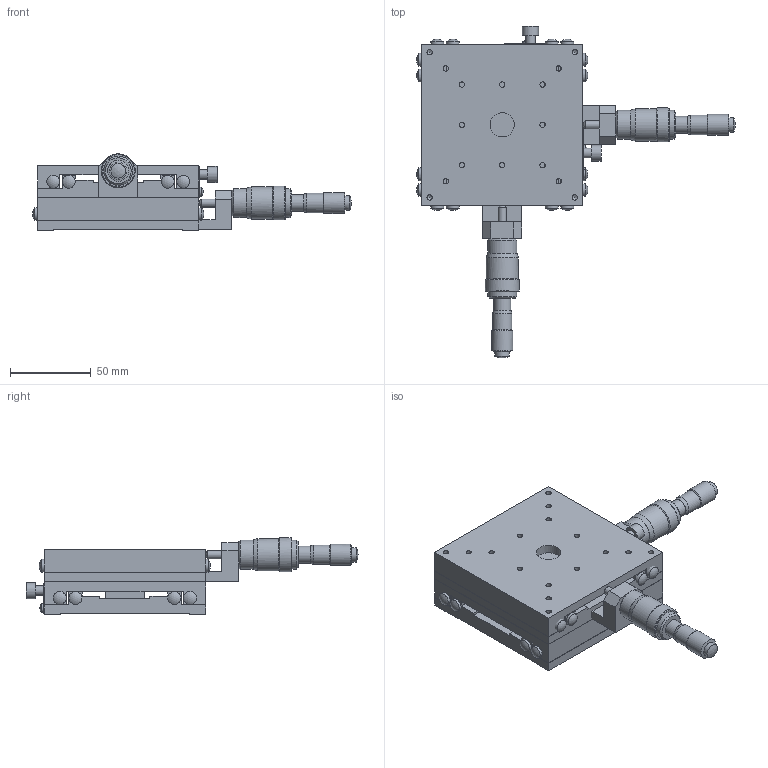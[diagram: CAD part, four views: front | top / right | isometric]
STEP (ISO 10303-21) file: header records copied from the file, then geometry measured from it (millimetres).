
FILE_DESCRIPTION( ( 'STEP AP214' ), '1' );
FILE_NAME( 'C:/Project/3D_B21-100B-配布-070508.stp', '2007-05-08T10:42:53', ( ' ' ), ( ' ' ), 'XStep 1.0', ' ', ' ' );
FILE_SCHEMA( ( 'automotive_design' ) );
Length unit declared in the file: millimetre
Products named in the file (6): 1; 2; 3; 4; 5; 6
Bounding box: 197.56 x 205.8 x 47.3 mm (x, y, z)
Volume: 385618.2 mm3; surface area: 128451.3 mm2
Topology: 6 solids, 6 shells, 308 faces, 866 edges, 560 vertices
Faces by surface type: plane 142, cylinder 110, cone 32, sphere 24
Full cylindrical faces by diameter (mm): 3 x2, 3.3 x32, 4.5 x8, 5 x4, 5.6 x4, 6 x2, 8 x24, 9 x2, 10 x2, 10.5 x4, 12 x2, 13 x2, 15 x2, 18 x4, 20 x2, 21 x2
Entity records: 10987 total; most frequent: DIRECTION 1472, CARTESIAN_POINT 1434, ORIENTED_EDGE 1224, EDGE_CURVE 612, AXIS2_PLACEMENT_3D 554, EDGE_LOOP 528, VERTEX_POINT 468, FACE_OUTER_BOUND 406
